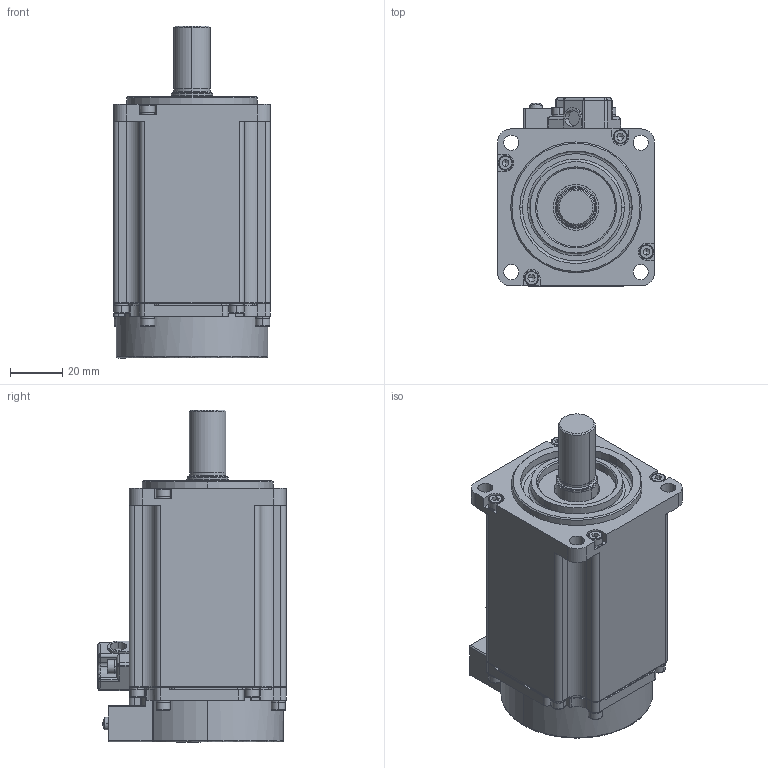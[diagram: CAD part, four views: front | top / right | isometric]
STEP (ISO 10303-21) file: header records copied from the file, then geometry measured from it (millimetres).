
FILE_DESCRIPTION (( 'STEP AP214' ), '1' );
FILE_NAME ('SME-H040.STEP', '2020-05-18T08:14:15', ( '' ), ( '' ), 'SwSTEP 2.0', 'SolidWorks 2016', '' );
FILE_SCHEMA (( 'AUTOMOTIVE_DESIGN' ));
Length unit declared in the file: millimetre
Products named in the file (1): SME-H040
Bounding box: 60 x 72 x 127 mm (x, y, z)
Volume: 86010.3 mm3; surface area: 62290 mm2
Topology: 31 solids, 31 shells, 943 faces, 2404 edges, 1508 vertices
Faces by surface type: cylinder 368, plane 357, cone 139, bspline 79
Entity records: 39753 total; most frequent: CARTESIAN_POINT 8538, DIRECTION 4749, ORIENTED_EDGE 4676, EDGE_CURVE 2338, AXIS2_PLACEMENT_3D 1822, VERTEX_POINT 1508, VECTOR 1105, LINE 1105
